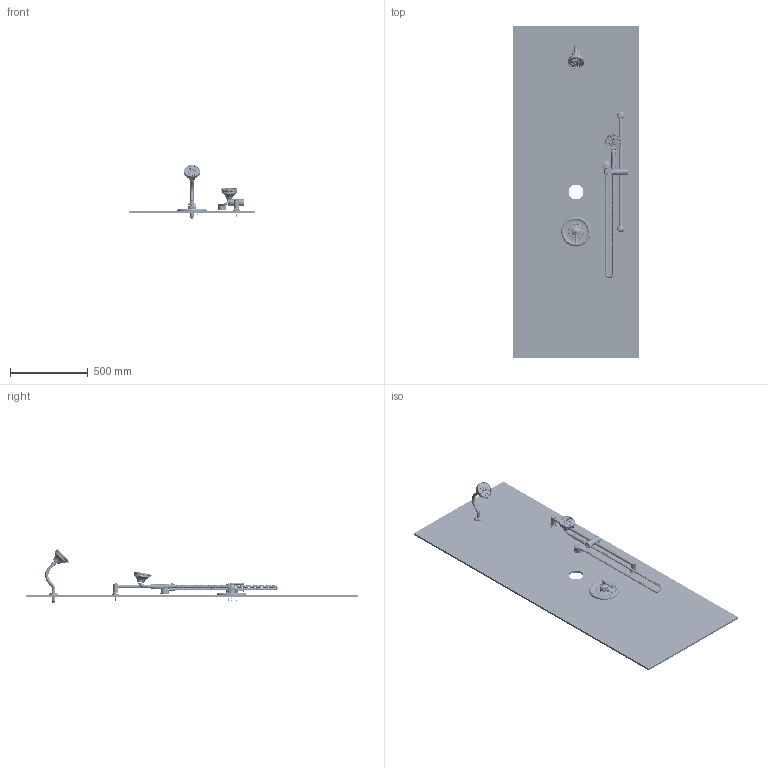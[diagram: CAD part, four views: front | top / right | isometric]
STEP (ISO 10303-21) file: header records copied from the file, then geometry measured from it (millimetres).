
FILE_DESCRIPTION (( 'STEP AP214' ), '1' );
FILE_NAME ('S5898TRMTC.STEP', '2025-11-20T12:37:13', ( '' ), ( '' ), 'SwSTEP 2.0', 'SolidWorks 2023', '' );
FILE_SCHEMA (( 'AUTOMOTIVE_DESIGN' ));
Products named in the file (1): S5898TRMTC
Bounding box: 812.8 x 2133.6 x 344.4 mm (x, y, z)
Surface area: 3884603.9 mm2 (no closed solid volume)
Topology: 0 solids, 269 shells, 887 faces, 3591 edges, 2821 vertices
Faces by surface type: bspline 246, cylinder 215, cone 193, torus 133, plane 89, sphere 11
Entity records: 177612 total; most frequent: CARTESIAN_POINT 151854, ORIENTED_EDGE 4757, DIRECTION 4674, EDGE_CURVE 3576, VERTEX_POINT 2818, AXIS2_PLACEMENT_3D 2035, CIRCLE 1393, B_SPLINE_CURVE_WITH_KNOTS 1261
